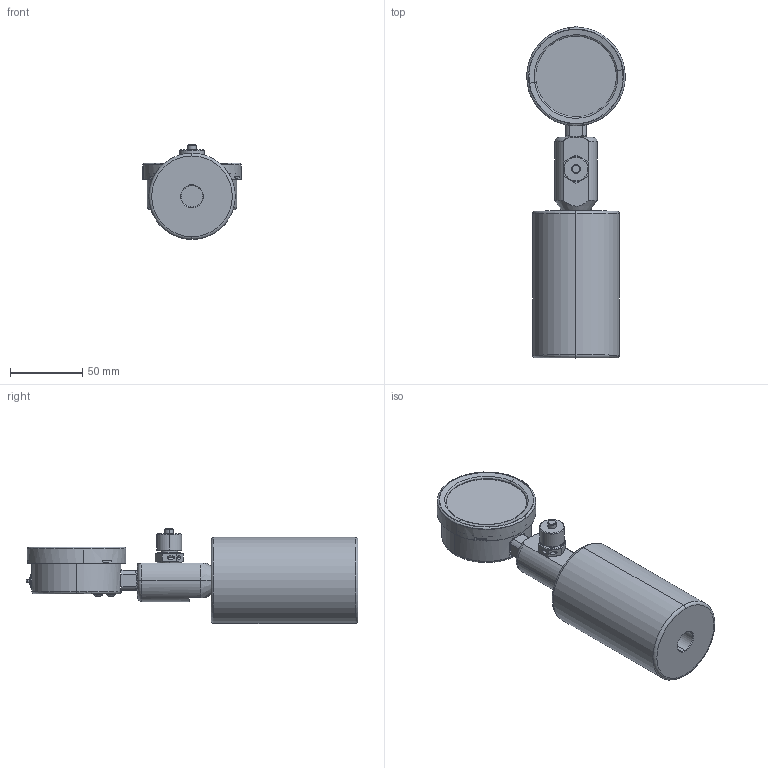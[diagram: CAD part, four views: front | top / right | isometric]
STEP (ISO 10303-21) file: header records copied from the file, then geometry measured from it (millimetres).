
FILE_DESCRIPTION (( 'STEP AP214' ), '1' );
FILE_NAME ('U001A01X1-PC (DGA).STEP', '2025-04-08T13:50:16', ( '' ), ( '' ), 'SwSTEP 2.0', 'SolidWorks 2024', '' );
FILE_SCHEMA (( 'AUTOMOTIVE_DESIGN' ));
Length unit declared in the file: millimetre
Products named in the file (1): U001A01X1-PC (DGA)
Bounding box: 68.39 x 230.5 x 66 mm (x, y, z)
Surface area: 76860.5 mm2 (no closed solid volume)
Topology: 0 solids, 20 shells, 791 faces, 2563 edges, 1732 vertices
Faces by surface type: plane 296, bspline 187, cylinder 177, cone 61, torus 60, sphere 10
Entity records: 60244 total; most frequent: CARTESIAN_POINT 31208, ORIENTED_EDGE 4330, DIRECTION 3501, EDGE_CURVE 2561, VERTEX_POINT 1732, LINE 1337, VECTOR 1337, AXIS2_PLACEMENT_3D 1082
